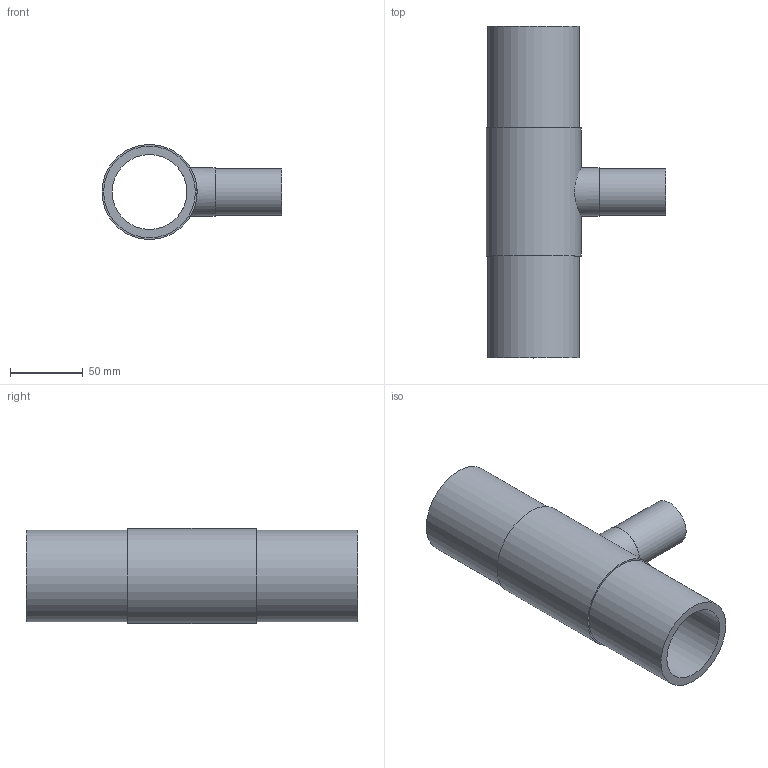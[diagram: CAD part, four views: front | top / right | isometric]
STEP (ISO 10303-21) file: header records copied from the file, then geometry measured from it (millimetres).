
FILE_DESCRIPTION(('Beschreibung'),'1');
FILE_NAME('V:/Ziel/25.20.01.103_red._SDR_11_PE100_063_032_063.STP', '2014-09-15T06:02:43',('Author'), ('Organization'), 'KCM Version 1.1.794.0', 'Kubotek KeyCreator', 'Authorization');
FILE_SCHEMA(('CONFIG_CONTROL_DESIGN'));
Length unit declared in the file: millimetre
Bounding box: 123.66 x 228 x 65.32 mm (x, y, z)
Volume: 271699.9 mm3; surface area: 95653.8 mm2
Topology: 1 solids, 1 shells, 17 faces, 46 edges, 51 vertices
Faces by surface type: cylinder 9, plane 8
Full cylindrical faces by diameter (mm): 26 x1, 32 x1, 33.2 x1, 51.4 x1, 63 x2, 65.32 x1
Entity records: 735 total; most frequent: CARTESIAN_POINT 246, DIRECTION 89, ORIENTED_EDGE 60, AXIS2_PLACEMENT_3D 33, EDGE_CURVE 30, EDGE_LOOP 27, VECTOR 23, LINE 23
